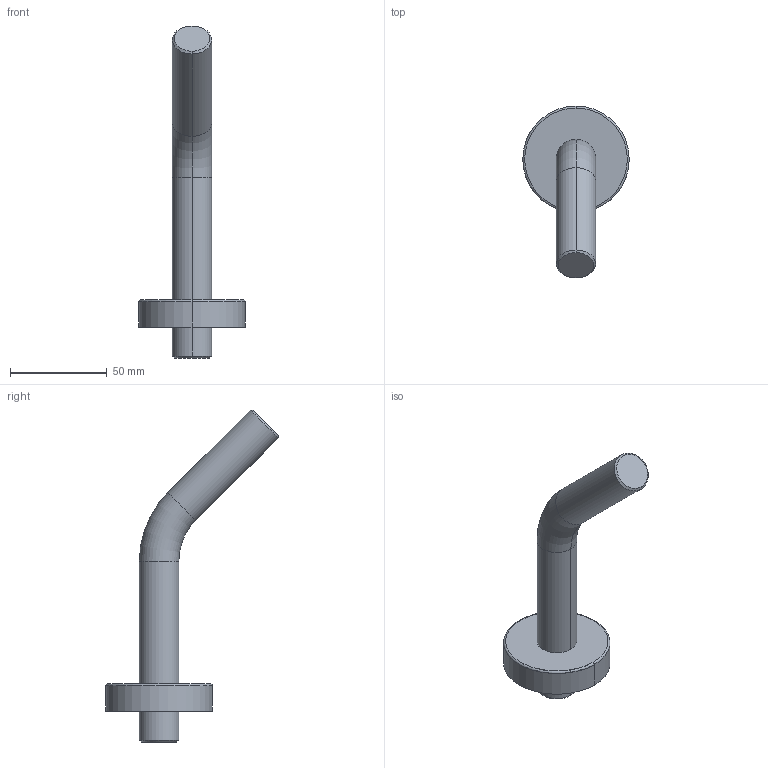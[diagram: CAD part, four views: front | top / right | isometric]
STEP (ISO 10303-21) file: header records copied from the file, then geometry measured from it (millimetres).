
FILE_DESCRIPTION (( 'STEP AP203' ), '1' );
FILE_NAME ('51990200.STEP', '2018-04-13T05:42:54', ( '' ), ( '' ), 'SwSTEP 2.0', 'SolidWorks 2016', '' );
FILE_SCHEMA (( 'CONFIG_CONTROL_DESIGN' ));
Length unit declared in the file: millimetre
Products named in the file (1): 51990200
Bounding box: 55 x 89.01 x 171.51 mm (x, y, z)
Volume: 67718.7 mm3; surface area: 22606.9 mm2
Topology: 1 solids, 1 shells, 33 faces, 64 edges, 38 vertices
Faces by surface type: cylinder 14, plane 7, torus 6, cone 6
Entity records: 927 total; most frequent: DIRECTION 176, CARTESIAN_POINT 136, ORIENTED_EDGE 128, AXIS2_PLACEMENT_3D 78, EDGE_CURVE 64, CIRCLE 44, EDGE_LOOP 38, VERTEX_POINT 38
